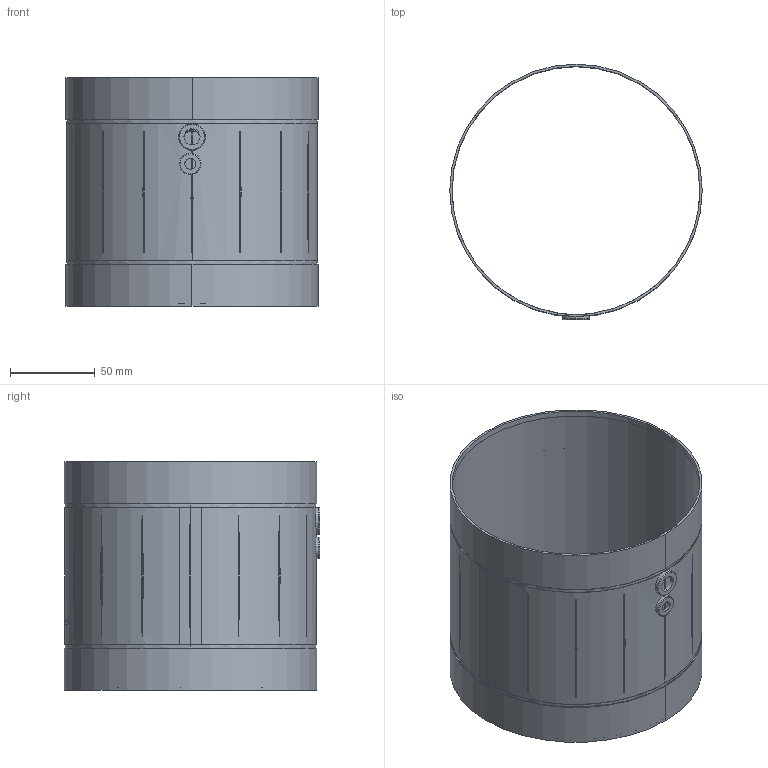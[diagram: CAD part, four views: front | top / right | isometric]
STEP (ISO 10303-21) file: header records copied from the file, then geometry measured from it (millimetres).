
FILE_DESCRIPTION (( 'STEP AP203' ), '1' );
FILE_NAME ('145795-00_EM150EC02.STEP', '2018-09-18T06:22:13', ( '' ), ( '' ), 'SwSTEP 2.0', 'SolidWorks 2017', '' );
FILE_SCHEMA (( 'CONFIG_CONTROL_DESIGN' ));
Length unit declared in the file: millimetre
Products named in the file (1): 145795-00_EM150EC02
Bounding box: 149 x 150.85 x 135 mm (x, y, z)
Surface area: 127551.6 mm2 (no closed solid volume)
Topology: 0 solids, 10 shells, 127 faces, 446 edges, 313 vertices
Faces by surface type: cylinder 52, bspline 39, plane 23, cone 7, torus 6
Entity records: 6559 total; most frequent: CARTESIAN_POINT 3216, ORIENTED_EDGE 655, DIRECTION 565, EDGE_CURVE 446, VERTEX_POINT 313, AXIS2_PLACEMENT_3D 244, B_SPLINE_CURVE_WITH_KNOTS 202, CIRCLE 155
